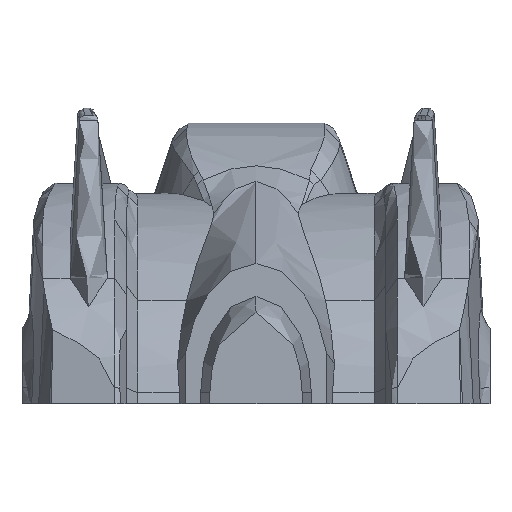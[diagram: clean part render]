
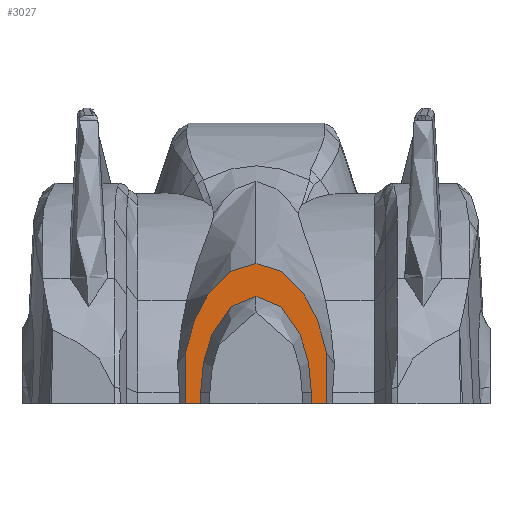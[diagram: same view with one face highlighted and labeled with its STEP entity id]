
A CAD part, front view. The second image highlights one B-rep face of the part: STEP entity #3027.
In plain terms, the highlighted planar face has unit normal (0, -1, 0).
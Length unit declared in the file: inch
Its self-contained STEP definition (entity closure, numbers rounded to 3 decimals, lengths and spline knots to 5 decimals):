
#52 = DIRECTION ( 'NONE',  ( 0., 0., -1. ) ) ;
#115 = VERTEX_POINT ( 'NONE', #467 ) ;
#278 = EDGE_CURVE ( 'NONE', #10373, #2588, #4087, .T. ) ;
#437 = DIRECTION ( 'NONE',  ( 1., 0., 0. ) ) ;
#467 = CARTESIAN_POINT ( 'NONE',  ( 4.15078, 0.09613, 0.24097 ) ) ;
#728 = VERTEX_POINT ( 'NONE', #11413 ) ;
#774 = EDGE_CURVE ( 'NONE', #728, #1669, #12995, .T. ) ;
#961 = LINE ( 'NONE', #5453, #8580 ) ;
#1019 = VECTOR ( 'NONE', #8159, 39.37008 ) ;
#1058 = CARTESIAN_POINT ( 'NONE',  ( 3.67927, 0.09613, -0.24808 ) ) ;
#1184 = ORIENTED_EDGE ( 'NONE', *, *, #14396, .T. ) ;
#1321 = CARTESIAN_POINT ( 'NONE',  ( 3.88627, 0.09613, 0.45392 ) ) ;
#1466 = LINE ( 'NONE', #9743, #10394 ) ;
#1653 = VERTEX_POINT ( 'NONE', #3212 ) ;
#1669 = VERTEX_POINT ( 'NONE', #4572 ) ;
#1899 = AXIS2_PLACEMENT_3D ( 'NONE', #11927, #14262, #7388 ) ;
#1954 = DIRECTION ( 'NONE',  ( 0., 0., -1. ) ) ;
#2307 = CARTESIAN_POINT ( 'NONE',  ( 4.11584, 0.09613, 0.43111 ) ) ;
#2588 = VERTEX_POINT ( 'NONE', #8290 ) ;
#2891 = VECTOR ( 'NONE', #4400, 39.37008 ) ;
#3027 = ADVANCED_FACE ( 'NONE', ( #13626 ), #5146, .F. ) ;
#3187 = VECTOR ( 'NONE', #13426, 39.37008 ) ;
#3212 = CARTESIAN_POINT ( 'NONE',  ( 3.88627, 0.09613, 0.57687 ) ) ;
#3241 = CARTESIAN_POINT ( 'NONE',  ( 4.09327, 0.09613, 0.09392 ) ) ;
#3292 = CARTESIAN_POINT ( 'NONE',  ( 3.74827, 0.09613, 0.45392 ) ) ;
#3379 = EDGE_CURVE ( 'NONE', #15059, #7262, #12865, .T. ) ;
#3441 = CARTESIAN_POINT ( 'NONE',  ( 4.09327, 0.09613, 0.09392 ) ) ;
#3550 = CARTESIAN_POINT ( 'NONE',  ( 4.09327, 0.09613, 0.09392 ) ) ;
#3733 = CARTESIAN_POINT ( 'NONE',  ( 4.09327, 0.09613, 0.27392 ) ) ;
#3737 = LINE ( 'NONE', #1058, #7371 ) ;
#4087 = LINE ( 'NONE', #7037, #1019 ) ;
#4135 = EDGE_CURVE ( 'NONE', #1653, #115, #8076, .T. ) ;
#4400 = DIRECTION ( 'NONE',  ( 0., 0., 1. ) ) ;
#4515 = ORIENTED_EDGE ( 'NONE', *, *, #6481, .F. ) ;
#4572 = CARTESIAN_POINT ( 'NONE',  ( 3.62176, 0.09613, 0.05192 ) ) ;
#4979 = CARTESIAN_POINT ( 'NONE',  ( 3.65671, 0.09613, 0.43111 ) ) ;
#5039 = EDGE_CURVE ( 'NONE', #7262, #7987, #10619, .T. ) ;
#5146 = PLANE ( 'NONE',  #1899 ) ;
#5453 = CARTESIAN_POINT ( 'NONE',  ( 4.15078, 0.09613, 0.24097 ) ) ;
#5711 = CARTESIAN_POINT ( 'NONE',  ( 4.15078, 0.09613, 0.24097 ) ) ;
#5986 = CARTESIAN_POINT ( 'NONE',  ( 3.67927, 0.09613, 0.05192 ) ) ;
#5992 = LINE ( 'NONE', #3241, #2891 ) ;
#6098 = CARTESIAN_POINT ( 'NONE',  ( 3.88627, 0.09613, 0.57687 ) ) ;
#6385 = CARTESIAN_POINT ( 'NONE',  ( 4.09327, 0.09613, 0.05192 ) ) ;
#6481 = EDGE_CURVE ( 'NONE', #7987, #8504, #3737, .T. ) ;
#7037 = CARTESIAN_POINT ( 'NONE',  ( 3.88627, 0.09613, 0.05192 ) ) ;
#7108 = CARTESIAN_POINT ( 'NONE',  ( 3.88627, 0.09613, 0.45392 ) ) ;
#7145 = ORIENTED_EDGE ( 'NONE', *, *, #3379, .F. ) ;
#7262 = VERTEX_POINT ( 'NONE', #1321 ) ;
#7371 = VECTOR ( 'NONE', #52, 39.37008 ) ;
#7388 = DIRECTION ( 'NONE',  ( 0., 0., 1. ) ) ;
#7427 = CARTESIAN_POINT ( 'NONE',  ( 3.62176, 0.09613, 0.24097 ) ) ;
#7987 = VERTEX_POINT ( 'NONE', #13782 ) ;
#8076 =( BOUNDED_CURVE ( )  B_SPLINE_CURVE ( 3, ( #13895, #11724, #2307, #5711 ),
 .UNSPECIFIED., .F., .F. ) 
 B_SPLINE_CURVE_WITH_KNOTS ( ( 4, 4 ),
 ( 0.5, 1. ),
 .UNSPECIFIED. ) 
 CURVE ( )  GEOMETRIC_REPRESENTATION_ITEM ( )  RATIONAL_B_SPLINE_CURVE ( ( 0.652, 0.652, 0.768, 1. ) ) 
 REPRESENTATION_ITEM ( '' )  );
#8159 = DIRECTION ( 'NONE',  ( 1., 0., 0. ) ) ;
#8290 = CARTESIAN_POINT ( 'NONE',  ( 4.15078, 0.09613, 0.05192 ) ) ;
#8504 = VERTEX_POINT ( 'NONE', #5986 ) ;
#8580 = VECTOR ( 'NONE', #1954, 39.37008 ) ;
#8946 = EDGE_CURVE ( 'NONE', #10373, #15059, #5992, .T. ) ;
#9219 = ORIENTED_EDGE ( 'NONE', *, *, #12738, .F. ) ;
#9743 = CARTESIAN_POINT ( 'NONE',  ( 3.88627, 0.09613, 0.05192 ) ) ;
#10261 = CARTESIAN_POINT ( 'NONE',  ( 3.88627, 0.09613, 0.45392 ) ) ;
#10300 = EDGE_CURVE ( 'NONE', #728, #1653, #14491, .T. ) ;
#10373 = VERTEX_POINT ( 'NONE', #6385 ) ;
#10394 = VECTOR ( 'NONE', #437, 39.37008 ) ;
#10619 =( BOUNDED_CURVE ( )  B_SPLINE_CURVE ( 3, ( #10261, #3292, #12636, #11270 ),
 .UNSPECIFIED., .F., .F. ) 
 B_SPLINE_CURVE_WITH_KNOTS ( ( 4, 4 ),
 ( 0.5, 1. ),
 .UNSPECIFIED. ) 
 CURVE ( )  GEOMETRIC_REPRESENTATION_ITEM ( )  RATIONAL_B_SPLINE_CURVE ( ( 0.5, 0.5, 0.667, 1. ) ) 
 REPRESENTATION_ITEM ( '' )  );
#10647 = ORIENTED_EDGE ( 'NONE', *, *, #5039, .F. ) ;
#11270 = CARTESIAN_POINT ( 'NONE',  ( 3.67927, 0.09613, 0.09392 ) ) ;
#11413 = CARTESIAN_POINT ( 'NONE',  ( 3.62176, 0.09613, 0.24097 ) ) ;
#11580 = EDGE_LOOP ( 'NONE', ( #12745, #1184, #4515, #10647, #7145, #12008, #14991, #9219, #13073, #12272 ) ) ;
#11690 = CARTESIAN_POINT ( 'NONE',  ( 4.02427, 0.09613, 0.45392 ) ) ;
#11724 = CARTESIAN_POINT ( 'NONE',  ( 4.02145, 0.09613, 0.57687 ) ) ;
#11895 = CARTESIAN_POINT ( 'NONE',  ( 3.62176, 0.09613, 0.24097 ) ) ;
#11927 = CARTESIAN_POINT ( 'NONE',  ( 3.88627, 0.09613, 0.09392 ) ) ;
#12008 = ORIENTED_EDGE ( 'NONE', *, *, #8946, .F. ) ;
#12272 = ORIENTED_EDGE ( 'NONE', *, *, #10300, .F. ) ;
#12636 = CARTESIAN_POINT ( 'NONE',  ( 3.67927, 0.09613, 0.27392 ) ) ;
#12738 = EDGE_CURVE ( 'NONE', #115, #2588, #961, .T. ) ;
#12745 = ORIENTED_EDGE ( 'NONE', *, *, #774, .T. ) ;
#12865 =( BOUNDED_CURVE ( )  B_SPLINE_CURVE ( 3, ( #3550, #3733, #11690, #7108 ),
 .UNSPECIFIED., .F., .F. ) 
 B_SPLINE_CURVE_WITH_KNOTS ( ( 4, 4 ),
 ( 0., 0.5 ),
 .UNSPECIFIED. ) 
 CURVE ( )  GEOMETRIC_REPRESENTATION_ITEM ( )  RATIONAL_B_SPLINE_CURVE ( ( 1., 0.667, 0.5, 0.5 ) ) 
 REPRESENTATION_ITEM ( '' )  );
#12995 = LINE ( 'NONE', #7427, #3187 ) ;
#13073 = ORIENTED_EDGE ( 'NONE', *, *, #4135, .F. ) ;
#13162 = CARTESIAN_POINT ( 'NONE',  ( 3.75109, 0.09613, 0.57687 ) ) ;
#13426 = DIRECTION ( 'NONE',  ( 0., 0., -1. ) ) ;
#13626 = FACE_OUTER_BOUND ( 'NONE', #11580, .T. ) ;
#13782 = CARTESIAN_POINT ( 'NONE',  ( 3.67927, 0.09613, 0.09392 ) ) ;
#13895 = CARTESIAN_POINT ( 'NONE',  ( 3.88627, 0.09613, 0.57687 ) ) ;
#14262 = DIRECTION ( 'NONE',  ( 0., 1., 0. ) ) ;
#14396 = EDGE_CURVE ( 'NONE', #1669, #8504, #1466, .T. ) ;
#14491 =( BOUNDED_CURVE ( )  B_SPLINE_CURVE ( 3, ( #11895, #4979, #13162, #6098 ),
 .UNSPECIFIED., .F., .F. ) 
 B_SPLINE_CURVE_WITH_KNOTS ( ( 4, 4 ),
 ( 0., 0.5 ),
 .UNSPECIFIED. ) 
 CURVE ( )  GEOMETRIC_REPRESENTATION_ITEM ( )  RATIONAL_B_SPLINE_CURVE ( ( 1., 0.768, 0.652, 0.652 ) ) 
 REPRESENTATION_ITEM ( '' )  );
#14991 = ORIENTED_EDGE ( 'NONE', *, *, #278, .T. ) ;
#15059 = VERTEX_POINT ( 'NONE', #3441 ) ;
